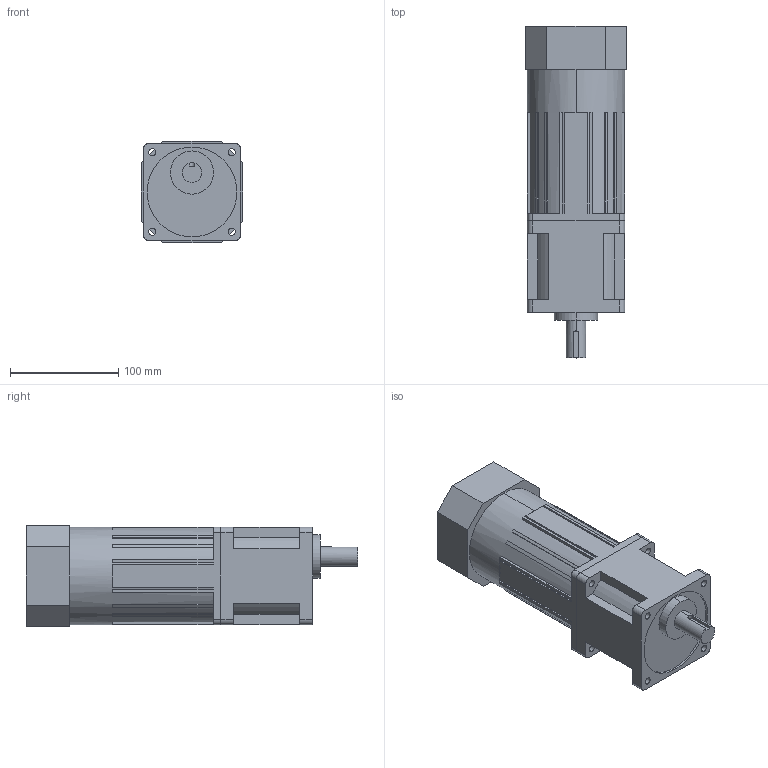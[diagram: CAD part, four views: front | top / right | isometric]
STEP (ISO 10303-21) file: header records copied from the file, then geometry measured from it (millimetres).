
FILE_DESCRIPTION (( 'STEP AP203' ), '1' );
FILE_NAME ('L9UK003B + L9R90PBHE.STEP', '2018-10-03T05:53:05', ( '' ), ( '' ), 'SwSTEP 2.0', 'SolidWorks 2017', '' );
FILE_SCHEMA (( 'CONFIG_CONTROL_DESIGN' ));
Length unit declared in the file: millimetre
Products named in the file (1): L9UK003B + L9R90PBHE
Bounding box: 94 x 307 x 94 mm (x, y, z)
Volume: 1844697.6 mm3; surface area: 131621.5 mm2
Topology: 2 solids, 2 shells, 176 faces, 498 edges, 330 vertices
Faces by surface type: plane 127, cylinder 49
Entity records: 5862 total; most frequent: CARTESIAN_POINT 1035, ORIENTED_EDGE 996, DIRECTION 989, EDGE_CURVE 498, LINE 357, VECTOR 357, VERTEX_POINT 330, AXIS2_PLACEMENT_3D 316
